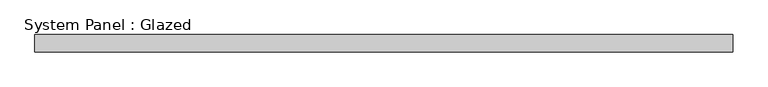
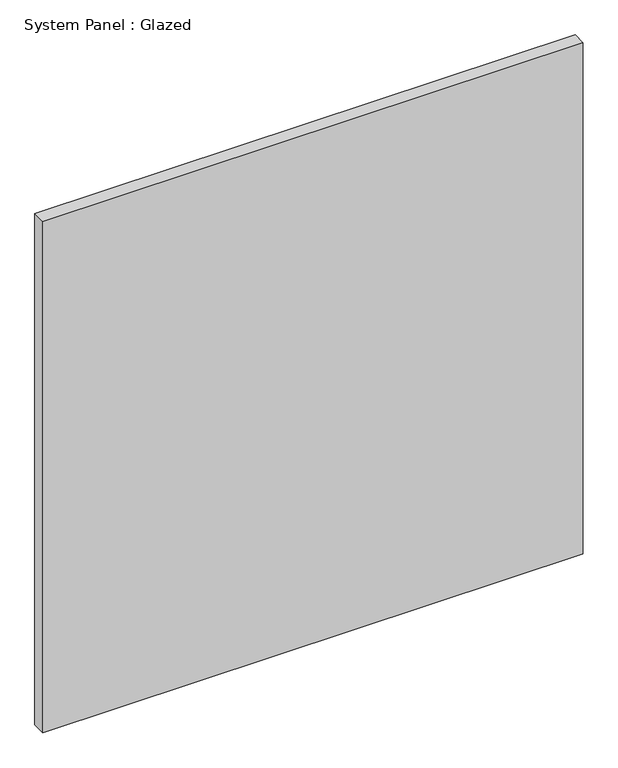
"""IFC4 building model written with IfcOpenShell, lengths in millimetres: plate geometry, System Panel : Glazed."""

from ifc_helpers import new_model, si_unit, origin, origin_with_axes, place, context, project, spatial, polyline, outline, extrude, source, transform, mapped, element, save


def system_panel_glazed_0a4e9c67(model_context):
    return source(origin(), model_context, "Body", "SweptSolid", [
        extrude(outline(polyline([(500.0, 24.5), (-500.0, 24.5), (-500.0, 49.5), (500.0, 49.5), (500.0, 24.5)])), origin_with_axes(), (0.0, 0.0, 1.0), 1000.0),
    ])


if __name__ == "__main__":
    model = new_model("IFC4")
    model_context = context("Model", 3, world=origin())
    ifc_project = project(units=[si_unit("LENGTHUNIT", "METRE", prefix="MILLI")], contexts=[model_context])
    site = spatial("IfcSite", under=ifc_project)
    building = spatial("IfcBuilding", under=site)
    placement = place(None, origin())
    system_panel_glazed_shape = system_panel_glazed_0a4e9c67(model_context)
    element("IfcPlate", 1, ObjectType="System Panel : Glazed", at=placement, inside=building, context=model_context, shape_type="MappedRepresentation", body=[
        mapped(system_panel_glazed_shape, transform((0.0, 0.0, 0.0), x_axis=(1.0, 0.0, 0.0), y_axis=(0.0, 1.0, 0.0), z_axis=(0.0, 0.0, 1.0))),
    ])
    save(model, "model.ifc")
